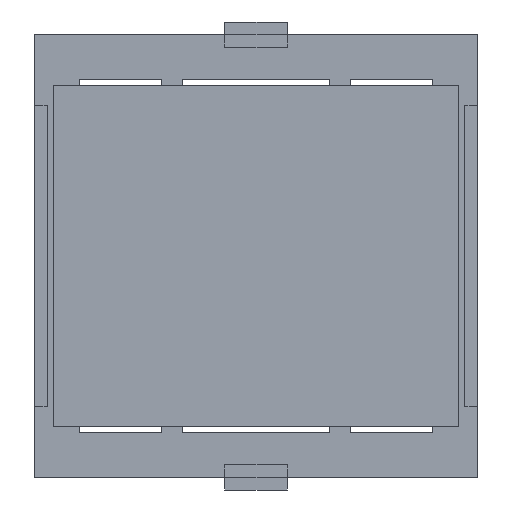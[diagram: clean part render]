
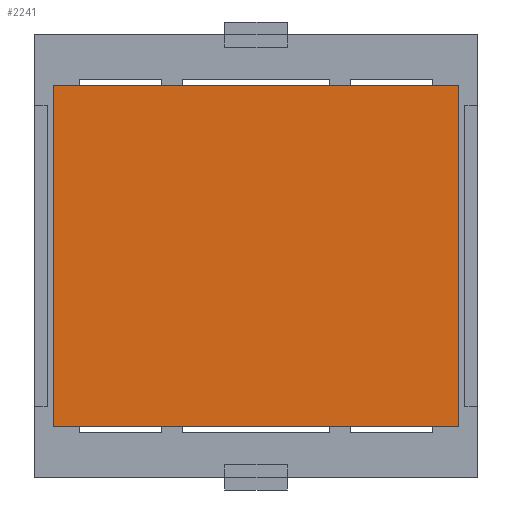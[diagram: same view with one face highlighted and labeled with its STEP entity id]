
A CAD part, front view. The second image highlights one B-rep face of the part: STEP entity #2241.
In plain terms, the highlighted planar face has unit normal (0, -1, 0).
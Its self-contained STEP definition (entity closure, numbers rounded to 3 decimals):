
#235 = ORIENTED_EDGE ( 'NONE', *, *, #4434, .F. ) ;
#239 = DIRECTION ( 'NONE',  ( -1., 0., 0. ) ) ;
#319 = VERTEX_POINT ( 'NONE', #2554 ) ;
#416 = LINE ( 'NONE', #1365, #1936 ) ;
#634 = VECTOR ( 'NONE', #1917, 1000. ) ;
#1211 = LINE ( 'NONE', #1245, #4646 ) ;
#1245 = CARTESIAN_POINT ( 'NONE',  ( -16.129, -0.127, -13.589 ) ) ;
#1315 = CARTESIAN_POINT ( 'NONE',  ( -16.129, -0.127, -13.589 ) ) ;
#1365 = CARTESIAN_POINT ( 'NONE',  ( 16.129, -0.127, -13.589 ) ) ;
#1593 = EDGE_CURVE ( 'NONE', #2699, #2053, #416, .T. ) ;
#1726 = LINE ( 'NONE', #1315, #3006 ) ;
#1917 = DIRECTION ( 'NONE',  ( 1., 0., 0. ) ) ;
#1936 = VECTOR ( 'NONE', #4688, 1000. ) ;
#1963 = ORIENTED_EDGE ( 'NONE', *, *, #2958, .F. ) ;
#2007 = CARTESIAN_POINT ( 'NONE',  ( -16.129, -0.127, 13.589 ) ) ;
#2053 = VERTEX_POINT ( 'NONE', #6149 ) ;
#2233 = DIRECTION ( 'NONE',  ( 0., 0., 1. ) ) ;
#2241 = ADVANCED_FACE ( 'NONE', ( #2584 ), #4007, .F. ) ;
#2451 = CARTESIAN_POINT ( 'NONE',  ( -16.129, -0.127, 13.589 ) ) ;
#2520 = EDGE_CURVE ( 'NONE', #319, #2699, #5284, .T. ) ;
#2554 = CARTESIAN_POINT ( 'NONE',  ( -16.129, -0.127, 13.589 ) ) ;
#2584 = FACE_OUTER_BOUND ( 'NONE', #5949, .T. ) ;
#2699 = VERTEX_POINT ( 'NONE', #4537 ) ;
#2958 = EDGE_CURVE ( 'NONE', #2053, #4142, #1211, .T. ) ;
#3006 = VECTOR ( 'NONE', #2233, 1000. ) ;
#3349 = ORIENTED_EDGE ( 'NONE', *, *, #2520, .F. ) ;
#3395 = CARTESIAN_POINT ( 'NONE',  ( -16.129, -0.127, -13.589 ) ) ;
#3954 = DIRECTION ( 'NONE',  ( 0., 0., 1. ) ) ;
#4007 = PLANE ( 'NONE',  #5460 ) ;
#4142 = VERTEX_POINT ( 'NONE', #3395 ) ;
#4434 = EDGE_CURVE ( 'NONE', #4142, #319, #1726, .T. ) ;
#4537 = CARTESIAN_POINT ( 'NONE',  ( 16.129, -0.127, 13.589 ) ) ;
#4646 = VECTOR ( 'NONE', #239, 1000. ) ;
#4688 = DIRECTION ( 'NONE',  ( 0., 0., -1. ) ) ;
#4970 = DIRECTION ( 'NONE',  ( 0., 1., 0. ) ) ;
#5284 = LINE ( 'NONE', #2451, #634 ) ;
#5460 = AXIS2_PLACEMENT_3D ( 'NONE', #2007, #4970, #3954 ) ;
#5949 = EDGE_LOOP ( 'NONE', ( #235, #1963, #6090, #3349 ) ) ;
#6090 = ORIENTED_EDGE ( 'NONE', *, *, #1593, .F. ) ;
#6149 = CARTESIAN_POINT ( 'NONE',  ( 16.129, -0.127, -13.589 ) ) ;
